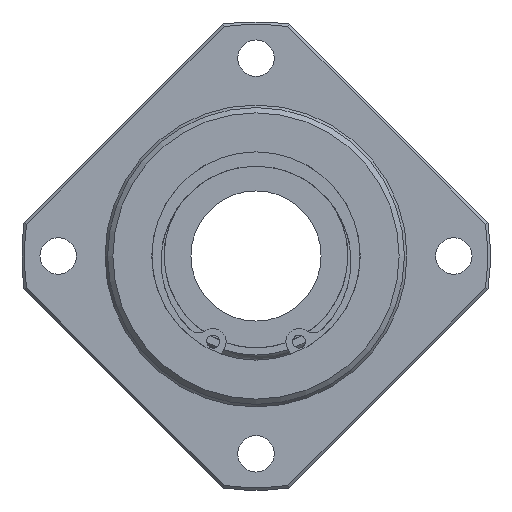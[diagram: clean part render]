
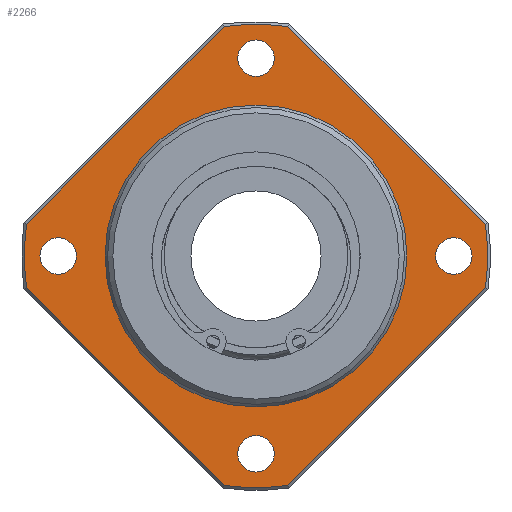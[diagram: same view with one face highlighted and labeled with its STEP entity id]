
A CAD part, left-side view. The second image highlights one B-rep face of the part: STEP entity #2266.
In plain terms, the highlighted planar face has unit normal (-1, 0, 0).
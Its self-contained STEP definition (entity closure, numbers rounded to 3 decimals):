
#1953=CARTESIAN_POINT('',(114.,-6.129,-44.076));
#1954=VERTEX_POINT('',#1953);
#1962=CARTESIAN_POINT('',(114.,6.129,-44.076));
#1963=VERTEX_POINT('',#1962);
#1964=CARTESIAN_POINT('',(114.,0.0,0.0));
#1965=DIRECTION('',(1.0,0.0,0.0));
#1966=DIRECTION('',(0.0,0.0,-1.0));
#1967=AXIS2_PLACEMENT_3D('',#1964,#1965,#1966);
#1968=CIRCLE('',#1967,44.5);
#1969=EDGE_CURVE('',#1954,#1963,#1968,.T.);
#1988=CARTESIAN_POINT('',(114.,44.076,-6.129));
#1989=VERTEX_POINT('',#1988);
#1990=CARTESIAN_POINT('',(114.,6.129,-44.076));
#1991=DIRECTION('',(0.0,0.707,0.707));
#1992=VECTOR('',#1991,53.666);
#1993=LINE('',#1990,#1992);
#1994=EDGE_CURVE('',#1963,#1989,#1993,.T.);
#2021=CARTESIAN_POINT('',(114.,44.076,6.129));
#2022=VERTEX_POINT('',#2021);
#2023=CARTESIAN_POINT('',(114.,0.0,0.0));
#2024=DIRECTION('',(1.0,0.0,0.0));
#2025=DIRECTION('',(0.0,0.0,1.0));
#2026=AXIS2_PLACEMENT_3D('',#2023,#2024,#2025);
#2027=CIRCLE('',#2026,44.5);
#2028=EDGE_CURVE('',#1989,#2022,#2027,.T.);
#2054=CARTESIAN_POINT('',(114.,6.129,44.076));
#2055=VERTEX_POINT('',#2054);
#2056=CARTESIAN_POINT('',(114.,44.076,6.129));
#2057=DIRECTION('',(0.0,-0.707,0.707));
#2058=VECTOR('',#2057,53.666);
#2059=LINE('',#2056,#2058);
#2060=EDGE_CURVE('',#2022,#2055,#2059,.T.);
#2087=CARTESIAN_POINT('',(114.,-6.129,44.076));
#2088=VERTEX_POINT('',#2087);
#2089=CARTESIAN_POINT('',(114.,0.0,0.0));
#2090=DIRECTION('',(1.0,0.0,0.0));
#2091=DIRECTION('',(0.0,0.0,1.0));
#2092=AXIS2_PLACEMENT_3D('',#2089,#2090,#2091);
#2093=CIRCLE('',#2092,44.5);
#2094=EDGE_CURVE('',#2055,#2088,#2093,.T.);
#2118=CARTESIAN_POINT('',(114.,-44.076,6.129));
#2119=VERTEX_POINT('',#2118);
#2120=CARTESIAN_POINT('',(114.,-6.129,44.076));
#2121=DIRECTION('',(0.0,-0.707,-0.707));
#2122=VECTOR('',#2121,53.666);
#2123=LINE('',#2120,#2122);
#2124=EDGE_CURVE('',#2088,#2119,#2123,.T.);
#2143=CARTESIAN_POINT('',(114.,-44.076,-6.129));
#2144=VERTEX_POINT('',#2143);
#2145=CARTESIAN_POINT('',(114.,0.0,0.0));
#2146=DIRECTION('',(1.0,0.0,0.0));
#2147=DIRECTION('',(0.0,0.0,1.0));
#2148=AXIS2_PLACEMENT_3D('',#2145,#2146,#2147);
#2149=CIRCLE('',#2148,44.5);
#2150=EDGE_CURVE('',#2119,#2144,#2149,.T.);
#2169=CARTESIAN_POINT('',(114.,-44.076,-6.129));
#2170=DIRECTION('',(0.0,0.707,-0.707));
#2171=VECTOR('',#2170,53.666);
#2172=LINE('',#2169,#2171);
#2173=EDGE_CURVE('',#2144,#1954,#2172,.T.);
#2196=CARTESIAN_POINT('',(114.,0.0,37.));
#2197=DIRECTION('',(-1.0,0.0,0.0));
#2198=DIRECTION('',(0.0,0.0,1.0));
#2199=AXIS2_PLACEMENT_3D('',#2196,#2197,#2198);
#2200=PLANE('',#2199);
#2201=ORIENTED_EDGE('',*,*,#1969,.F.);
#2202=ORIENTED_EDGE('',*,*,#2173,.F.);
#2203=ORIENTED_EDGE('',*,*,#2150,.F.);
#2204=ORIENTED_EDGE('',*,*,#2124,.F.);
#2205=ORIENTED_EDGE('',*,*,#2094,.F.);
#2206=ORIENTED_EDGE('',*,*,#2060,.F.);
#2207=ORIENTED_EDGE('',*,*,#2028,.F.);
#2208=ORIENTED_EDGE('',*,*,#1994,.F.);
#2209=EDGE_LOOP('',(#2201,#2202,#2203,#2204,#2205,#2206,#2207,#2208));
#2210=FACE_OUTER_BOUND('',#2209,.T.);
#2211=CARTESIAN_POINT('',(114.,0.0,29.));
#2212=VERTEX_POINT('',#2211);
#2213=CARTESIAN_POINT('',(114.,0.0,0.0));
#2214=DIRECTION('',(-1.0,0.0,0.0));
#2215=DIRECTION('',(0.0,0.0,1.0));
#2216=AXIS2_PLACEMENT_3D('',#2213,#2214,#2215);
#2217=CIRCLE('',#2216,29.);
#2218=EDGE_CURVE('',#2212,#2212,#2217,.T.);
#2219=ORIENTED_EDGE('',*,*,#2218,.F.);
#2220=EDGE_LOOP('',(#2219));
#2221=FACE_BOUND('',#2220,.T.);
#2222=CARTESIAN_POINT('',(114.0,3.5,38.0));
#2223=VERTEX_POINT('',#2222);
#2224=CARTESIAN_POINT('',(114.,0.,38.0));
#2225=DIRECTION('',(1.0,0.0,0.0));
#2226=DIRECTION('',(0.0,1.0,0.0));
#2227=AXIS2_PLACEMENT_3D('',#2224,#2225,#2226);
#2228=CIRCLE('',#2227,3.5);
#2229=EDGE_CURVE('',#2223,#2223,#2228,.T.);
#2230=ORIENTED_EDGE('',*,*,#2229,.T.);
#2231=EDGE_LOOP('',(#2230));
#2232=FACE_BOUND('',#2231,.T.);
#2233=CARTESIAN_POINT('',(114.0,-38.0,3.5));
#2234=VERTEX_POINT('',#2233);
#2235=CARTESIAN_POINT('',(114.,-38.0,0.));
#2236=DIRECTION('',(1.0,0.0,0.0));
#2237=DIRECTION('',(0.0,0.0,1.0));
#2238=AXIS2_PLACEMENT_3D('',#2235,#2236,#2237);
#2239=CIRCLE('',#2238,3.5);
#2240=EDGE_CURVE('',#2234,#2234,#2239,.T.);
#2241=ORIENTED_EDGE('',*,*,#2240,.T.);
#2242=EDGE_LOOP('',(#2241));
#2243=FACE_BOUND('',#2242,.T.);
#2244=CARTESIAN_POINT('',(114.0,-3.5,-38.0));
#2245=VERTEX_POINT('',#2244);
#2246=CARTESIAN_POINT('',(114.,0.,-38.0));
#2247=DIRECTION('',(1.0,0.0,0.0));
#2248=DIRECTION('',(0.0,-1.0,0.0));
#2249=AXIS2_PLACEMENT_3D('',#2246,#2247,#2248);
#2250=CIRCLE('',#2249,3.5);
#2251=EDGE_CURVE('',#2245,#2245,#2250,.T.);
#2252=ORIENTED_EDGE('',*,*,#2251,.T.);
#2253=EDGE_LOOP('',(#2252));
#2254=FACE_BOUND('',#2253,.T.);
#2255=CARTESIAN_POINT('',(114.0,38.0,-3.5));
#2256=VERTEX_POINT('',#2255);
#2257=CARTESIAN_POINT('',(114.,38.0,0.));
#2258=DIRECTION('',(1.0,0.0,0.0));
#2259=DIRECTION('',(0.0,0.0,-1.0));
#2260=AXIS2_PLACEMENT_3D('',#2257,#2258,#2259);
#2261=CIRCLE('',#2260,3.5);
#2262=EDGE_CURVE('',#2256,#2256,#2261,.T.);
#2263=ORIENTED_EDGE('',*,*,#2262,.T.);
#2264=EDGE_LOOP('',(#2263));
#2265=FACE_BOUND('',#2264,.T.);
#2266=ADVANCED_FACE('',(#2210,#2221,#2232,#2243,#2254,#2265),#2200,.T.);
